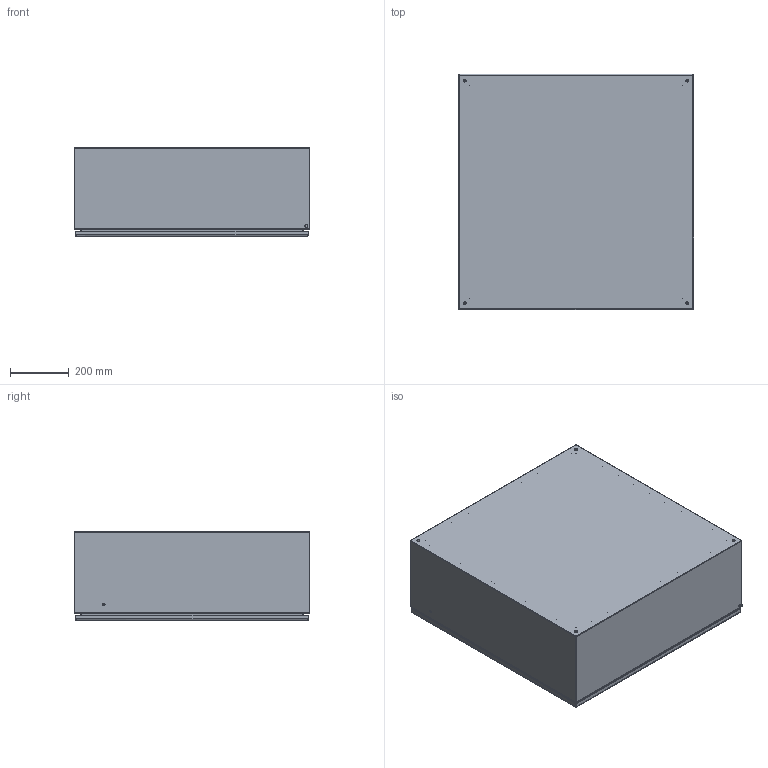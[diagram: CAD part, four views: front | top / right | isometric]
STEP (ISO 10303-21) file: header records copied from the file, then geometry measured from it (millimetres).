
FILE_DESCRIPTION (( 'STEP AP203' ), '1' );
FILE_NAME ('2162010025-semplificato.STEP', '2021-01-08T12:54:32', ( '' ), ( '' ), 'SwSTEP 2.0', 'SolidWorks 2019', '' );
FILE_SCHEMA (( 'CONFIG_CONTROL_DESIGN' ));
Length unit declared in the file: millimetre
Products named in the file (15): 2162010025-semplificato; 2162010025-03008010505_50; 2162010025-07008030101_20; 2162010025-03008040101_21; 2162010025-00008010102_01; 2162010025-03008030101_20; 2162010025-07008040101_21; 2162010025-04008010503_50; 2162010025-Dado esagonale flangiato zigrinato DIN6923_Dado  M8 flangiato-zigrinato DIN6923; 2162010025-06008030101_20; 2162010025-05008010503_50; 2162010025-00008030004_11; 2162010025-05008030101_20; 2162010025-04008030101_20; 2162010025-ECOR_Gomma_porta_singola_20
Assembly tree (21 placements, depth 6):
  2162010025-semplificato
    2162010025-05008010503_50
      2162010025-04008010503_50
        2162010025-03008010505_50
        2162010025-00008010102_01  x2
    2162010025-07008030101_20
      2162010025-06008030101_20
        2162010025-05008030101_20
          2162010025-04008030101_20
            2162010025-03008030101_20
            2162010025-00008010102_01  x2
            2162010025-00008030004_11  x2
        2162010025-ECOR_Gomma_porta_singola_20
    2162010025-07008040101_21
      2162010025-03008040101_21
      2162010025-Dado esagonale flangiato zigrinato DIN6923_Dado  M8 flangiato-zigrinato DIN6923  x4
Bounding box: 800 x 800 x 300 mm (x, y, z)
Volume: 4940543.4 mm3; surface area: 5946521.2 mm2
Topology: 70 solids, 70 shells, 1723 faces, 3954 edges, 2513 vertices
Faces by surface type: plane 1123, cylinder 397, bspline 92, cone 68, torus 43
Entity records: 42296 total; most frequent: CARTESIAN_POINT 9262, ORIENTED_EDGE 6368, DIRECTION 6225, EDGE_CURVE 3184, VECTOR 2521, LINE 2521, VERTEX_POINT 2039, AXIS2_PLACEMENT_3D 1852
